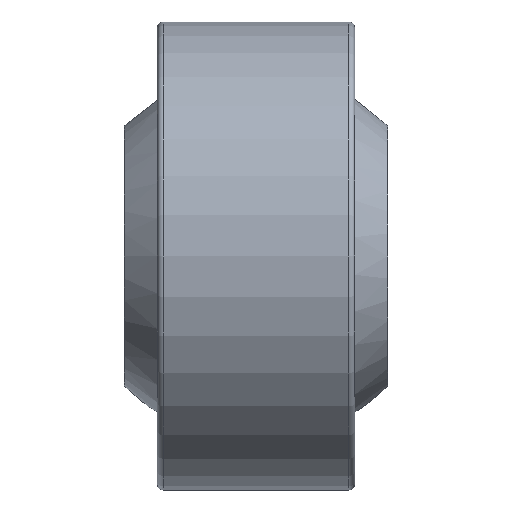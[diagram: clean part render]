
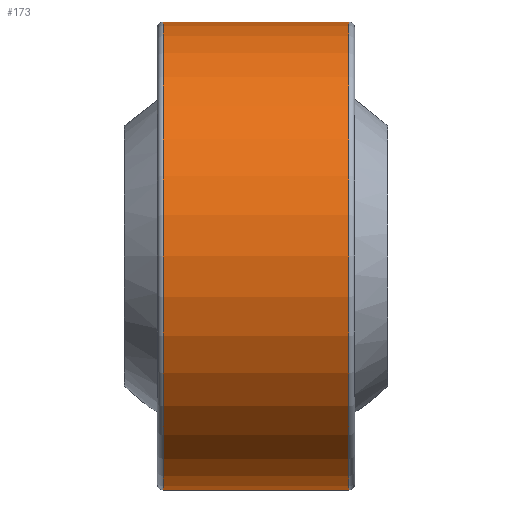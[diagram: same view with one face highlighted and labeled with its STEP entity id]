
A CAD part, front view. The second image highlights one B-rep face of the part: STEP entity #173.
In plain terms, the highlighted cylindrical face has radius 8 mm (diameter 16 mm), a full revolution.
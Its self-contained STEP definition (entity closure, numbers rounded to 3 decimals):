
#173 = ADVANCED_FACE( '', ( #193, #194 ), #195, .T. );
#193 = FACE_OUTER_BOUND( '', #224, .T. );
#194 = FACE_OUTER_BOUND( '', #225, .T. );
#195 = CYLINDRICAL_SURFACE( '', #226, 8. );
#224 = EDGE_LOOP( '', ( #262 ) );
#225 = EDGE_LOOP( '', ( #263 ) );
#226 = AXIS2_PLACEMENT_3D( '', #264, #265, #266 );
#262 = ORIENTED_EDGE( '', *, *, #297, .T. );
#263 = ORIENTED_EDGE( '', *, *, #296, .F. );
#264 = CARTESIAN_POINT( '', ( 3.375, 0., 0. ) );
#265 = DIRECTION( '', ( -1., 0., 0. ) );
#266 = DIRECTION( '', ( 0., 0., -1. ) );
#296 = EDGE_CURVE( '', #310, #310, #311, .T. );
#297 = EDGE_CURVE( '', #312, #312, #313, .T. );
#310 = VERTEX_POINT( '', #330 );
#311 = CIRCLE( '', #331, 8. );
#312 = VERTEX_POINT( '', #332 );
#313 = CIRCLE( '', #333, 8. );
#330 = CARTESIAN_POINT( '', ( 3.175, 0., -8. ) );
#331 = AXIS2_PLACEMENT_3D( '', #354, #355, #356 );
#332 = CARTESIAN_POINT( '', ( -3.175, 0., -8. ) );
#333 = AXIS2_PLACEMENT_3D( '', #357, #358, #359 );
#354 = CARTESIAN_POINT( '', ( 3.175, 0., 0. ) );
#355 = DIRECTION( '', ( 1., 0., 0. ) );
#356 = DIRECTION( '', ( 0., 0., -1. ) );
#357 = CARTESIAN_POINT( '', ( -3.175, 0., 0. ) );
#358 = DIRECTION( '', ( 1., 0., 0. ) );
#359 = DIRECTION( '', ( 0., 0., -1. ) );
